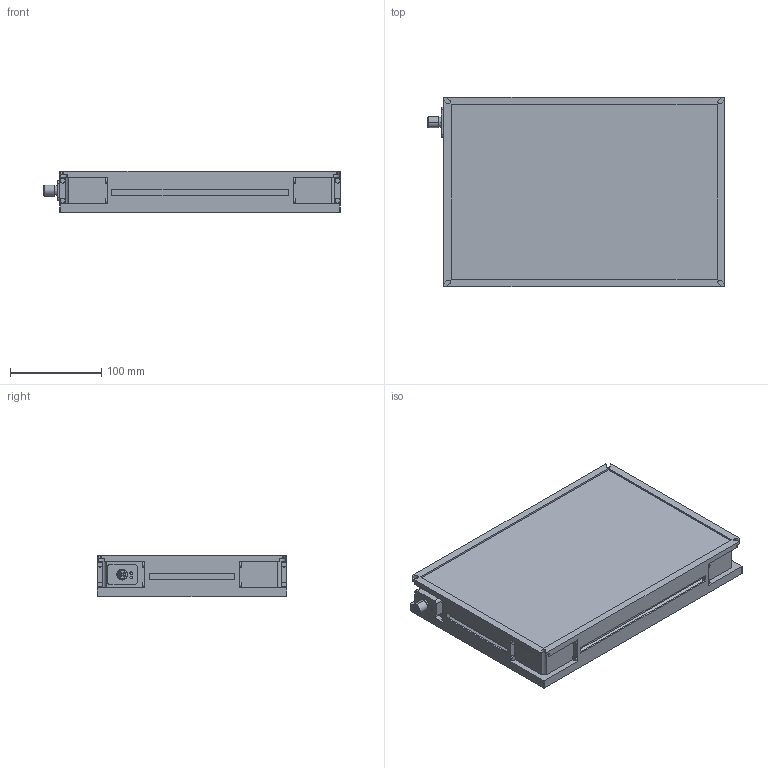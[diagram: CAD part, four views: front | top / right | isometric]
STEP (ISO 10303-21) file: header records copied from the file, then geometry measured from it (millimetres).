
FILE_DESCRIPTION (( 'STEP AP214' ), '1' );
FILE_NAME ('HPB-EC-3020-xxx-M1.STEP', '2026-06-08T15:56:21', ( '' ), ( '' ), 'SwSTEP 2.0', 'SolidWorks 2025', '' );
FILE_SCHEMA (( 'AUTOMOTIVE_DESIGN' ));
Length unit declared in the file: millimetre
Products named in the file (1): HPB-EC-3020-xxx-M1
Bounding box: 325.9 x 208 x 45.5 mm (x, y, z)
Volume: 2610007.2 mm3; surface area: 196386 mm2
Topology: 1 solids, 1 shells, 441 faces, 1142 edges, 758 vertices
Faces by surface type: plane 248, cylinder 103, bspline 80, cone 10
Entity records: 17426 total; most frequent: CARTESIAN_POINT 6694, ORIENTED_EDGE 2284, DIRECTION 1930, EDGE_CURVE 1142, VERTEX_POINT 758, VECTOR 758, LINE 758, AXIS2_PLACEMENT_3D 586
